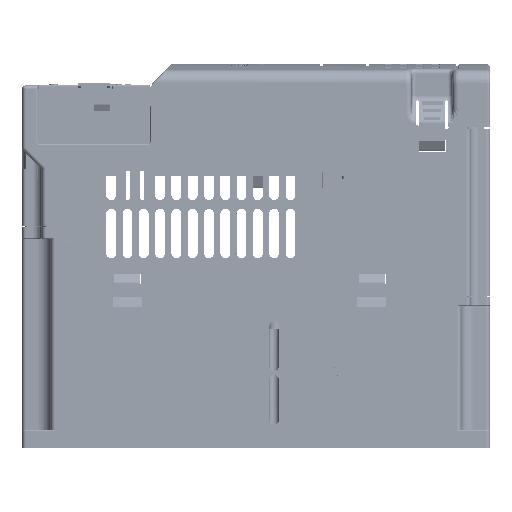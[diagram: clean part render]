
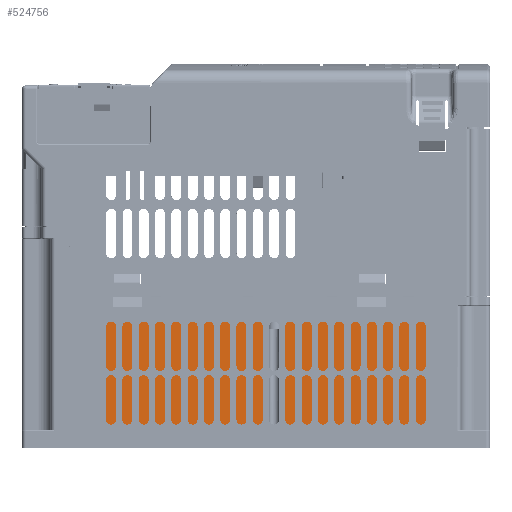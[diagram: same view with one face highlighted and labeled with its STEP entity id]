
A CAD part, left-side view. The second image highlights one B-rep face of the part: STEP entity #524756.
In plain terms, the highlighted planar face has unit normal (-1, 0.001, 0).
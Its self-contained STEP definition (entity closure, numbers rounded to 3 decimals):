
#492286=CARTESIAN_POINT('',(-21.835,77.307,62.3));
#492287=VERTEX_POINT('',#492286);
#492294=CARTESIAN_POINT('',(-21.835,51.607,62.3));
#492295=VERTEX_POINT('',#492294);
#492296=CARTESIAN_POINT('',(-21.835,77.307,62.3));
#492297=DIRECTION('',(0.0,-1.0,0.0));
#492298=VECTOR('',#492297,25.7);
#492299=LINE('',#492296,#492298);
#492300=EDGE_CURVE('',#492287,#492295,#492299,.T.);
#494762=CARTESIAN_POINT('',(-21.835,-96.093,2.3));
#494763=VERTEX_POINT('',#494762);
#494770=CARTESIAN_POINT('',(-21.835,77.307,2.3));
#494771=VERTEX_POINT('',#494770);
#494772=CARTESIAN_POINT('',(-21.835,-96.093,2.3));
#494773=DIRECTION('',(0.0,1.0,0.0));
#494774=VECTOR('',#494773,173.4);
#494775=LINE('',#494772,#494774);
#494776=EDGE_CURVE('',#494763,#494771,#494775,.T.);
#498195=CARTESIAN_POINT('',(-21.835,-96.093,55.3));
#498196=VERTEX_POINT('',#498195);
#498203=CARTESIAN_POINT('',(-21.835,-96.093,55.3));
#498204=DIRECTION('',(0.0,0.0,-1.0));
#498205=VECTOR('',#498204,53.);
#498206=LINE('',#498203,#498205);
#498207=EDGE_CURVE('',#498196,#494763,#498206,.T.);
#498515=CARTESIAN_POINT('',(-21.835,77.307,2.3));
#498516=DIRECTION('',(0.0,0.0,1.0));
#498517=VECTOR('',#498516,60.0);
#498518=LINE('',#498515,#498517);
#498519=EDGE_CURVE('',#494771,#492287,#498518,.T.);
#520939=CARTESIAN_POINT('',(-21.835,51.607,55.3));
#520940=VERTEX_POINT('',#520939);
#520947=CARTESIAN_POINT('',(-21.835,-96.093,55.3));
#520948=DIRECTION('',(0.0,1.0,0.0));
#520949=VECTOR('',#520948,147.7);
#520950=LINE('',#520947,#520949);
#520951=EDGE_CURVE('',#498196,#520940,#520950,.T.);
#524637=CARTESIAN_POINT('',(-21.835,51.607,62.3));
#524638=DIRECTION('',(0.0,0.0,-1.0));
#524639=VECTOR('',#524638,7.);
#524640=LINE('',#524637,#524639);
#524641=EDGE_CURVE('',#492295,#520940,#524640,.T.);
#524743=CARTESIAN_POINT('',(-21.835,-104.763,-0.7));
#524744=DIRECTION('',(-1.0,0.0,0.0));
#524745=DIRECTION('',(0.0,0.0,1.0));
#524746=AXIS2_PLACEMENT_3D('',#524743,#524744,#524745);
#524747=PLANE('',#524746);
#524748=ORIENTED_EDGE('',*,*,#520951,.T.);
#524749=ORIENTED_EDGE('',*,*,#524641,.F.);
#524750=ORIENTED_EDGE('',*,*,#492300,.F.);
#524751=ORIENTED_EDGE('',*,*,#498519,.F.);
#524752=ORIENTED_EDGE('',*,*,#494776,.F.);
#524753=ORIENTED_EDGE('',*,*,#498207,.F.);
#524754=EDGE_LOOP('',(#524748,#524749,#524750,#524751,#524752,#524753));
#524755=FACE_OUTER_BOUND('',#524754,.T.);
#524756=ADVANCED_FACE('',(#524755),#524747,.T.);
